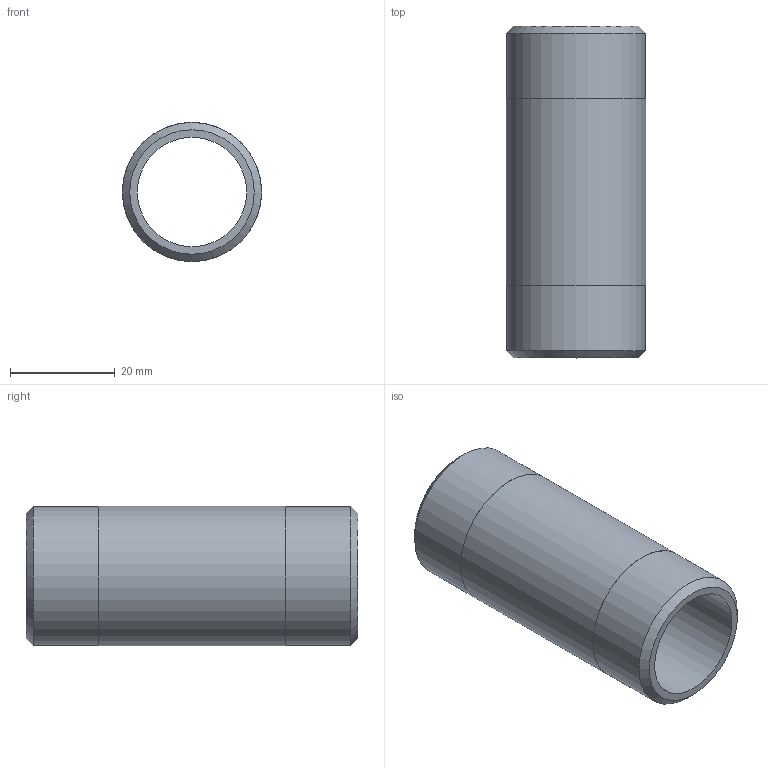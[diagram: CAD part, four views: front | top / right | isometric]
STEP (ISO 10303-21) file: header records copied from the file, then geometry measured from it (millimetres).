
FILE_DESCRIPTION(/* description */ (''),/* implementation_level */ '2;1');
FILE_NAME(/* name */ 'C:/Users/drich/Desktop/BPN34-2-1_2 v1.step',/* time_stamp */ '2020-01-03T15:17:13-06:00',/* author */ (''),/* organization */ (''),/* preprocessor_version */ 'ST-DEVELOPER v18',/* originating_system */ 'Autodesk Translation Framework v8.12.0.6',/* authorisation */ '');
FILE_SCHEMA (('AUTOMOTIVE_DESIGN { 1 0 10303 214 3 1 1 }'));
Length unit declared in the file: inch
Products named in the file (1): BPN34-2-1_2
Bounding box: 26.67 x 63.5 x 26.67 mm (x, y, z)
Volume: 13410.9 mm3; surface area: 9778.5 mm2
Topology: 1 solids, 1 shells, 10 faces, 24 edges, 18 vertices
Faces by surface type: cylinder 4, plane 4, cone 2
Full cylindrical faces by diameter (mm): 20.93 x1, 26.619 x2, 26.67 x1
Entity records: 360 total; most frequent: DIRECTION 64, CARTESIAN_POINT 53, ORIENTED_EDGE 48, AXIS2_PLACEMENT_3D 29, EDGE_CURVE 24, CIRCLE 18, VERTEX_POINT 18, EDGE_LOOP 14
